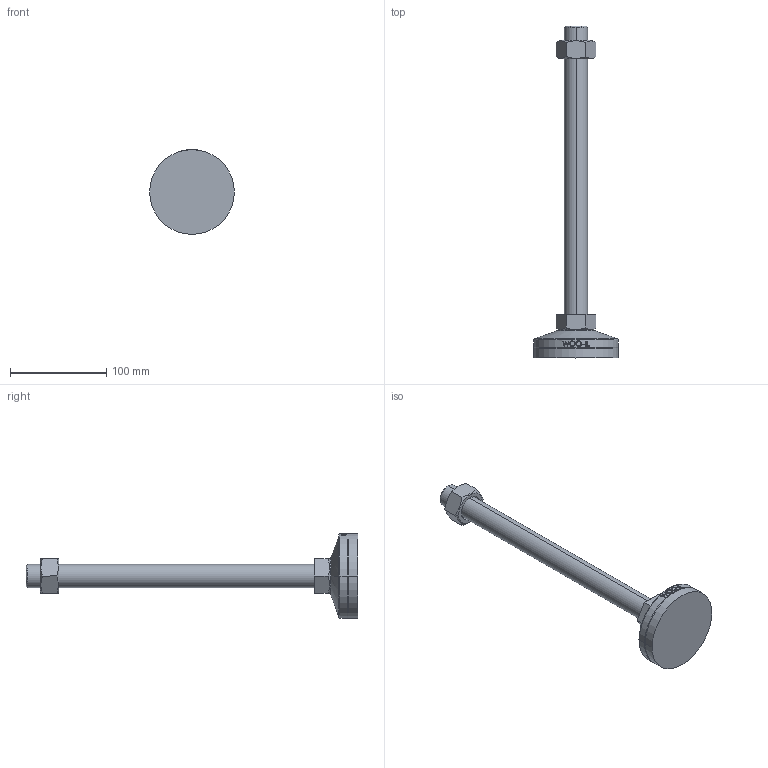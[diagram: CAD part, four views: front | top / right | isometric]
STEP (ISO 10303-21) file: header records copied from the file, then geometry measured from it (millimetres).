
FILE_DESCRIPTION (( 'STEP AP214' ), '1' );
FILE_NAME ('MFTR88-M24-300.step', '2021-02-08T08:39:40', ( '' ), ( '' ), 'SwSTEP 2.0', 'SolidWorks 2019', '' );
FILE_SCHEMA (( 'AUTOMOTIVE_DESIGN' ));
Length unit declared in the file: millimetre
Products named in the file (2): MFTR88-M24-300
Bounding box: 88 x 345 x 88 mm (x, y, z)
Volume: 314146.2 mm3; surface area: 61523.1 mm2
Topology: 4 solids, 4 shells, 103 faces, 235 edges, 150 vertices
Faces by surface type: plane 49, cylinder 18, bspline 16, cone 14, torus 6
Entity records: 4433 total; most frequent: CARTESIAN_POINT 2160, ORIENTED_EDGE 470, DIRECTION 417, EDGE_CURVE 235, AXIS2_PLACEMENT_3D 159, VERTEX_POINT 150, EDGE_LOOP 115, FACE_OUTER_BOUND 103
